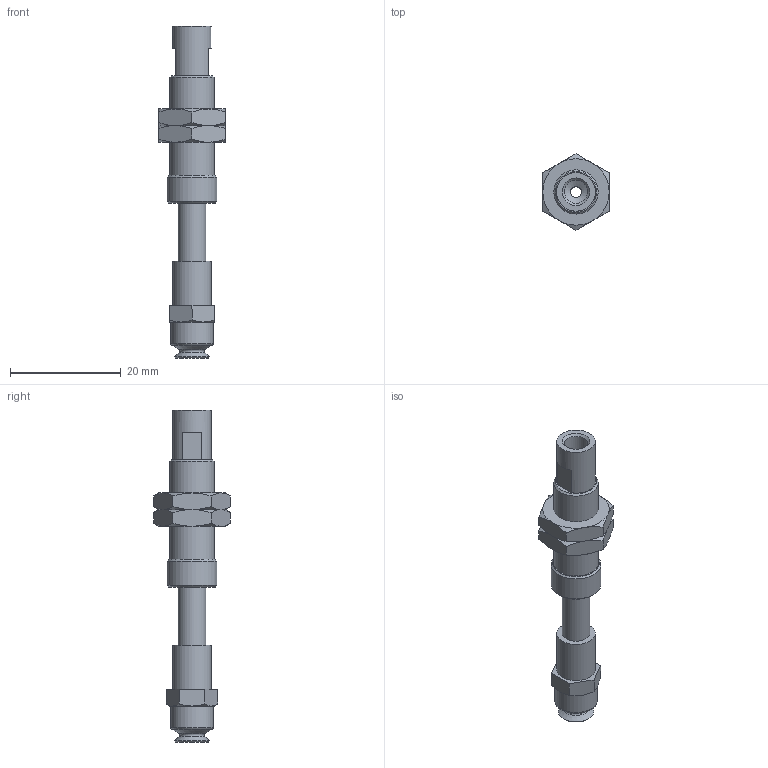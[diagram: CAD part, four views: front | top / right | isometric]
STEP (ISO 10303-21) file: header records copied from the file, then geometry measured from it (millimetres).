
FILE_DESCRIPTION(('STEP AP203'),'1');
FILE_NAME('-SPE.stp','2025-04-11T08:43:29',(' '),(' '),'Spatial InterOp 3D',' ',' ');
FILE_SCHEMA(('CONFIG_CONTROL_DESIGN'));
Length unit declared in the file: millimetre
Products named in the file (8): BNABPFTS-6A-10-※-SPE; ZIG; BODY; NUT; TN-PS-10-M5; Setting screws-TN-PS-10-M5; BPFG-6A-※
Assembly tree (7 placements, depth 3):
  BNABPFTS-6A-10-※-SPE
    ZIG
    BODY
    NUT
    NUT
    TN-PS-10-M5
      Setting screws-TN-PS-10-M5
    BPFG-6A-※
Bounding box: 12 x 13.86 x 60 mm (x, y, z)
Volume: 2574.6 mm3; surface area: 3838.5 mm2
Topology: 6 solids, 6 shells, 136 faces, 283 edges, 170 vertices
Faces by surface type: plane 57, cone 47, cylinder 23, torus 8, bspline 1
Full cylindrical faces by diameter (mm): 2 x3, 3.9 x1, 4 x4, 4.2 x2, 5 x3, 5.2 x1, 6 x2, 7 x2, 7.25 x2, 7.7 x1, 8 x1, 9 x1
Entity records: 3741 total; most frequent: CARTESIAN_POINT 738, DIRECTION 558, ORIENTED_EDGE 446, AXIS2_PLACEMENT_3D 251, EDGE_CURVE 223, EDGE_LOOP 208, FACE_OUTER_BOUND 168, VERTEX_POINT 159
